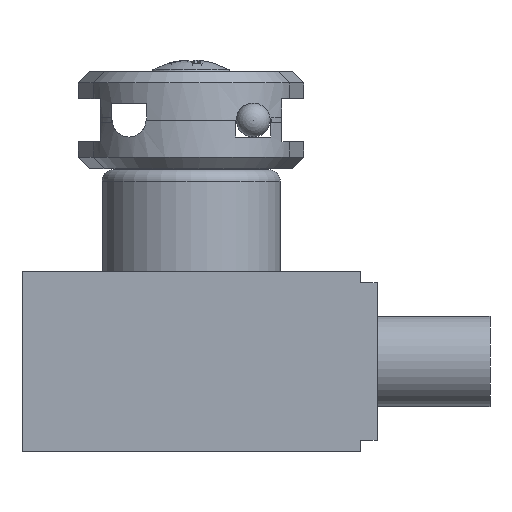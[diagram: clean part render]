
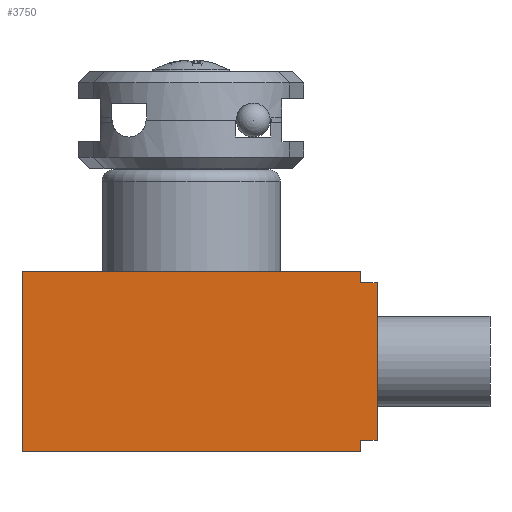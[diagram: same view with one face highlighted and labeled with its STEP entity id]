
A CAD part, front view. The second image highlights one B-rep face of the part: STEP entity #3750.
In plain terms, the highlighted planar face has unit normal (0, -1, 0) as drawn and (0, 0, -1) by its records, which use the part's own axes.
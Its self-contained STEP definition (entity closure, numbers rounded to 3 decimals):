
#176=PLANE('',#4187);
#331=FACE_OUTER_BOUND('',#553,.T.);
#553=EDGE_LOOP('',(#2744,#2745,#2746,#2747,#2748,#2749,#2750,#2751));
#737=LINE('',#5613,#1092);
#757=LINE('',#5673,#1112);
#765=LINE('',#5688,#1120);
#781=LINE('',#5742,#1136);
#797=LINE('',#5787,#1152);
#813=LINE('',#5820,#1168);
#816=LINE('',#5825,#1171);
#817=LINE('',#5827,#1172);
#1092=VECTOR('',#4530,14.);
#1112=VECTOR('',#4588,1.);
#1120=VECTOR('',#4596,1.);
#1136=VECTOR('',#4650,30.);
#1152=VECTOR('',#4694,16.);
#1168=VECTOR('',#4732,30.);
#1171=VECTOR('',#4739,1.5);
#1172=VECTOR('',#4742,1.5);
#1601=VERTEX_POINT('',#5610);
#1602=VERTEX_POINT('',#5612);
#1620=VERTEX_POINT('',#5666);
#1622=VERTEX_POINT('',#5670);
#1623=VERTEX_POINT('',#5672);
#1630=VERTEX_POINT('',#5686);
#1649=VERTEX_POINT('',#5740);
#1664=VERTEX_POINT('',#5785);
#1969=EDGE_CURVE('',#1602,#1601,#737,.T.);
#1998=EDGE_CURVE('',#1623,#1622,#757,.T.);
#2006=EDGE_CURVE('',#1620,#1630,#765,.T.);
#2031=EDGE_CURVE('',#1630,#1649,#781,.T.);
#2053=EDGE_CURVE('',#1664,#1649,#797,.T.);
#2070=EDGE_CURVE('',#1664,#1623,#813,.T.);
#2073=EDGE_CURVE('',#1622,#1602,#816,.T.);
#2074=EDGE_CURVE('',#1620,#1601,#817,.T.);
#2744=ORIENTED_EDGE('',*,*,#1969,.T.);
#2745=ORIENTED_EDGE('',*,*,#2074,.F.);
#2746=ORIENTED_EDGE('',*,*,#2006,.T.);
#2747=ORIENTED_EDGE('',*,*,#2031,.T.);
#2748=ORIENTED_EDGE('',*,*,#2053,.F.);
#2749=ORIENTED_EDGE('',*,*,#2070,.T.);
#2750=ORIENTED_EDGE('',*,*,#1998,.T.);
#2751=ORIENTED_EDGE('',*,*,#2073,.T.);
#3750=ADVANCED_FACE('',(#331),#176,.T.);
#4187=AXIS2_PLACEMENT_3D('',#5826,#4740,#4741);
#4530=DIRECTION('',(0.,-1.,0.));
#4588=DIRECTION('',(0.,-1.,0.));
#4596=DIRECTION('',(0.,-1.,0.));
#4650=DIRECTION('',(-1.,0.,0.));
#4694=DIRECTION('',(0.,-1.,0.));
#4732=DIRECTION('',(1.,0.,0.));
#4739=DIRECTION('',(1.,0.,0.));
#4740=DIRECTION('center_axis',(0.,0.,-1.));
#4741=DIRECTION('ref_axis',(-1.,0.,0.));
#4742=DIRECTION('',(1.,0.,0.));
#5610=CARTESIAN_POINT('',(16.5,-15.,-40.));
#5612=CARTESIAN_POINT('',(16.5,-1.,-40.));
#5613=CARTESIAN_POINT('',(16.5,-1.,-40.));
#5666=CARTESIAN_POINT('',(15.,-15.,-40.));
#5670=CARTESIAN_POINT('',(15.,-1.,-40.));
#5672=CARTESIAN_POINT('',(15.,0.,-40.));
#5673=CARTESIAN_POINT('',(15.,0.,-40.));
#5686=CARTESIAN_POINT('',(15.,-16.,-40.));
#5688=CARTESIAN_POINT('',(15.,-15.,-40.));
#5740=CARTESIAN_POINT('',(-15.,-16.,-40.));
#5742=CARTESIAN_POINT('',(15.,-16.,-40.));
#5785=CARTESIAN_POINT('',(-15.,0.,-40.));
#5787=CARTESIAN_POINT('',(-15.,0.,-40.));
#5820=CARTESIAN_POINT('',(-15.,0.,-40.));
#5825=CARTESIAN_POINT('',(15.,-1.,-40.));
#5826=CARTESIAN_POINT('Origin',(15.,-1.,-40.));
#5827=CARTESIAN_POINT('',(15.,-15.,-40.));
